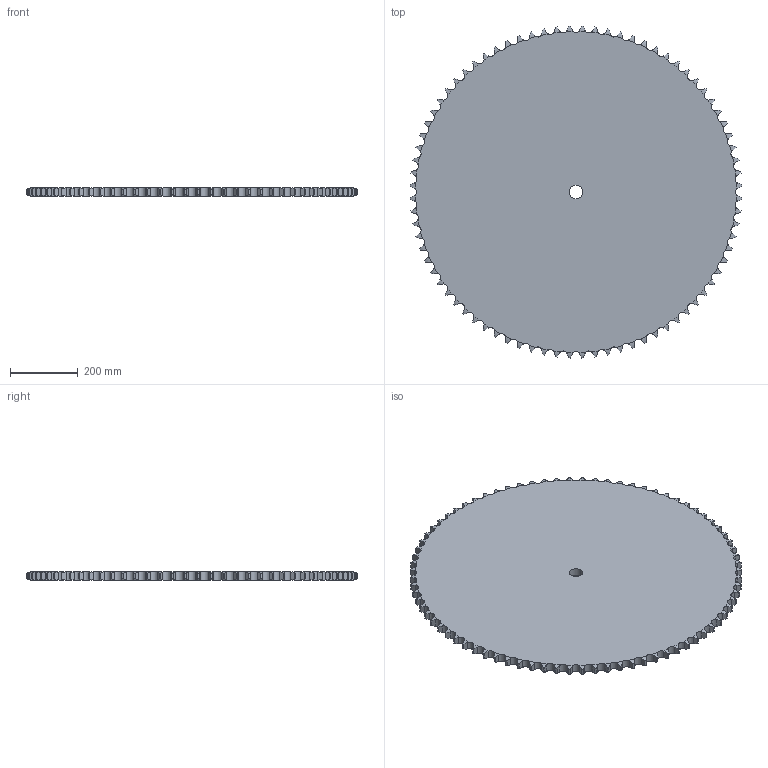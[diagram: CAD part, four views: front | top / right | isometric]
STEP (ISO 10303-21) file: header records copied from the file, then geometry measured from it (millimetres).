
FILE_DESCRIPTION((''),'2;1');
FILE_NAME('500-701-0080_PRT','2021-02-12T',('Brieden'),('Brieden'),'PRO/ENGINEER BY PARAMETRIC TECHNOLOGY CORPORATION, 2010160','PRO/ENGINEER BY PARAMETRIC TECHNOLOGY CORPORATION, 2010160','');
FILE_SCHEMA(('AUTOMOTIVE_DESIGN { 1 0 10303 214 1 1 1 1 }'));
Length unit declared in the file: millimetre
Products named in the file (1): 500-701-0080_PRT
Bounding box: 983.29 x 983.29 x 24.1 mm (x, y, z)
Volume: 17354460.6 mm3; surface area: 1550467.1 mm2
Topology: 1 solids, 1 shells, 484 faces, 1446 edges, 964 vertices
Faces by surface type: cylinder 322, torus 160, plane 2
Entity records: 25314 total; most frequent: CARTESIAN_POINT 8665, ORIENTED_EDGE 2892, DIRECTION 2258, PRESENTATION_STYLE_ASSIGNMENT 1447, STYLED_ITEM 1447, CURVE_STYLE 1446, EDGE_CURVE 1446, AXIS2_PLACEMENT_3D 968
